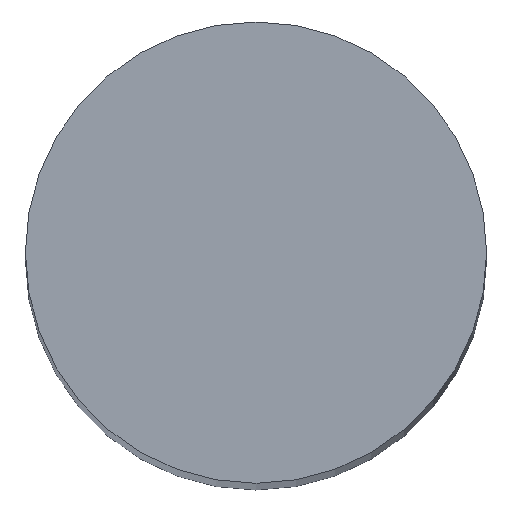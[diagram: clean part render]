
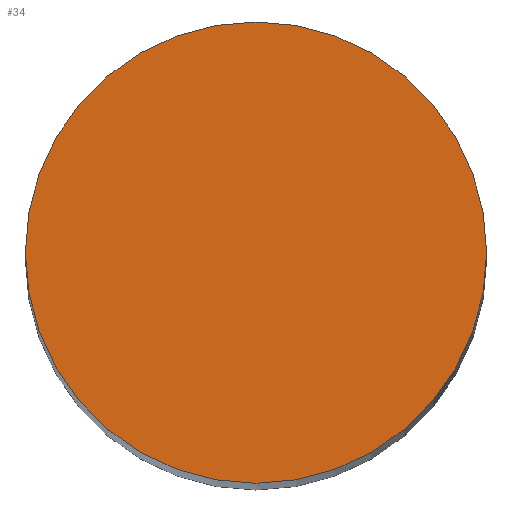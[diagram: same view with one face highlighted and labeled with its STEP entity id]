
A CAD part, top view. The second image highlights one B-rep face of the part: STEP entity #34.
In plain terms, the highlighted planar face has unit normal (0, 0, 1).
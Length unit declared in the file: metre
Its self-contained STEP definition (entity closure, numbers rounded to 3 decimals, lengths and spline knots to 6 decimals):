
#12=PLANE('',#52);
#16=ORIENTED_EDGE('',*,*,#18,.T.);
#18=EDGE_CURVE('',#20,#20,#22,.T.);
#20=VERTEX_POINT('',#69);
#22=CIRCLE('',#50,0.006101);
#26=EDGE_LOOP('',(#16));
#30=FACE_BOUND('',#26,.T.);
#34=ADVANCED_FACE('',(#30),#12,.T.);
#50=AXIS2_PLACEMENT_3D('',#68,#58,#59);
#52=AXIS2_PLACEMENT_3D('',#72,#62,#63);
#58=DIRECTION('',(0.,0.,1.));
#59=DIRECTION('',(1.,0.,0.));
#62=DIRECTION('',(0.,0.,1.));
#63=DIRECTION('',(1.,0.,0.));
#68=CARTESIAN_POINT('',(0.07036,-0.039868,0.031));
#69=CARTESIAN_POINT('',(0.076461,-0.039868,0.031));
#72=CARTESIAN_POINT('',(-0.04979,0.00644,0.031));
